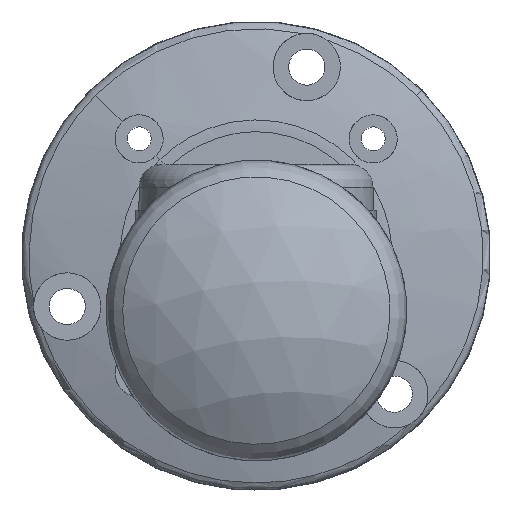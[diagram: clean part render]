
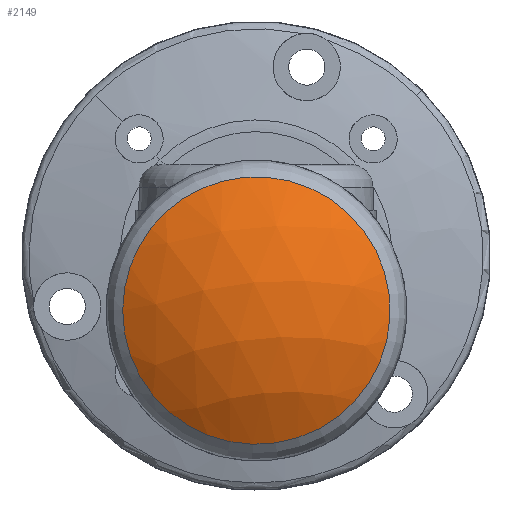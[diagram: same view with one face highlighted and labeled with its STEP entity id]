
A CAD part, front view. The second image highlights one B-rep face of the part: STEP entity #2149.
In plain terms, the highlighted spherical face has radius 41.321 mm.
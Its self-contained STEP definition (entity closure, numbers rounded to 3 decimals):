
#209=SPHERICAL_SURFACE('',#9399,41.321);
#2149=ADVANCED_FACE('',(#2675),#209,.T.);
#2675=FACE_OUTER_BOUND('',#3171,.T.);
#3171=EDGE_LOOP('',(#4188));
#4188=ORIENTED_EDGE('',*,*,#7746,.F.);
#6693=VERTEX_POINT('',#12998);
#7746=EDGE_CURVE('',#6693,#6693,#9043,.T.);
#9043=CIRCLE('',#9395,22.228);
#9395=AXIS2_PLACEMENT_3D('',#12997,#10337,#10338);
#9399=AXIS2_PLACEMENT_3D('',#13002,#10345,#10346);
#10337=DIRECTION('',(0.,1.,0.));
#10338=DIRECTION('',(-0.985,0.,0.174));
#10345=DIRECTION('',(0.077,-0.544,-0.836));
#10346=DIRECTION('',(0.05,0.839,-0.541));
#12997=CARTESIAN_POINT('',(0.,-171.053,8.7));
#12998=CARTESIAN_POINT('',(-21.89,-171.053,12.56));
#13002=CARTESIAN_POINT('',(0.,-136.219,8.7));
